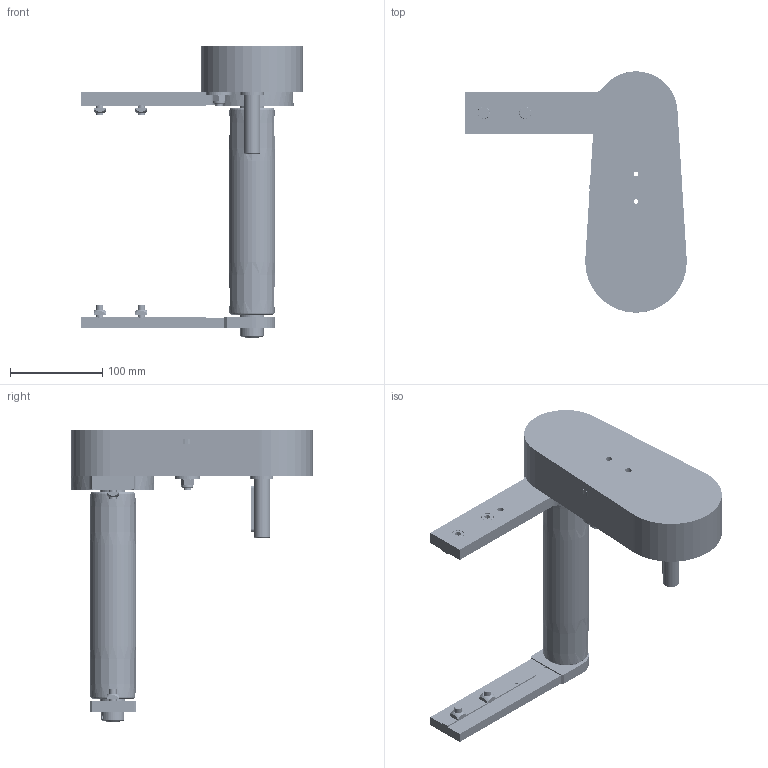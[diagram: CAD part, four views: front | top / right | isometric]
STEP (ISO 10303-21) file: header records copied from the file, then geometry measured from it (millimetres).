
FILE_DESCRIPTION (( 'STEP AP203' ), '1' );
FILE_NAME ('084.050.KTC.44.200.step', '2014-02-18T11:36:04', ( '' ), ( '' ), 'SwSTEP 2.0', 'SolidWorks 2012', '' );
FILE_SCHEMA (( 'CONFIG_CONTROL_DESIGN' ));
Products named in the file (24): 084.050.KTC.44.200; CHIAVETTE_A 6x6x50 UNI 6604-69; 084.302.000 DADI ALUSIC 13x13_084.302.004; 084.301.000 VITI ALUSIC_084.301.003; 084.810.005; ISO 7040-M8-S_ISO 7040-M8-S; Washer ISO 7094 - 8_Washer ISO 7094 - 8; Circlip DIN 471 - 8 x 0.8_Circlip DIN 471 - 8 x 0.8; CUSCINETTI A SFERE_608-2RS; 084.810.004; 084.810.007; 084.809.003; 084.809.001; 084.803.012; 084.813.004; 084.803.014; 084.807.002_084.807.002; 084.807.001_084.807.001; 084.802.017_084.802.017; 084.802.034_084.802.034; 084.810.001; 084.813.001; 084.811.004; 084.815.103_Default<A macchina>
Assembly tree (32 placements, depth 3):
  084.050.KTC.44.200
    084.815.103_Default<A macchina>
    084.811.004
    084.813.001
    084.810.001  x2
    084.802.034_084.802.034
    084.802.017_084.802.017
    084.807.001_084.807.001
    084.807.002_084.807.002
    084.803.014  x2
    084.813.004
    084.803.012
    084.809.001
    084.809.003
    084.810.005
      084.810.007
      084.810.004
      CUSCINETTI A SFERE_608-2RS  x2
      Circlip DIN 471 - 8 x 0.8_Circlip DIN 471 - 8 x 0.8
      Washer ISO 7094 - 8_Washer ISO 7094 - 8
      ISO 7040-M8-S_ISO 7040-M8-S
    084.301.000 VITI ALUSIC_084.301.003  x4
    084.302.000 DADI ALUSIC 13x13_084.302.004  x4
    CHIAVETTE_A 6x6x50 UNI 6604-69
Bounding box: 240 x 261.5 x 316 mm (x, y, z)
Volume: 806832.2 mm3; surface area: 459178.4 mm2
Topology: 61 solids, 62 shells, 2868 faces, 6741 edges, 4300 vertices
Faces by surface type: cylinder 1415, plane 705, bspline 468, cone 185, torus 86, sphere 9
Entity records: 81912 total; most frequent: CARTESIAN_POINT 18608, DIRECTION 13782, ORIENTED_EDGE 11952, EDGE_CURVE 5976, AXIS2_PLACEMENT_3D 5815, VERTEX_POINT 3801, CIRCLE 3669, EDGE_LOOP 3133
